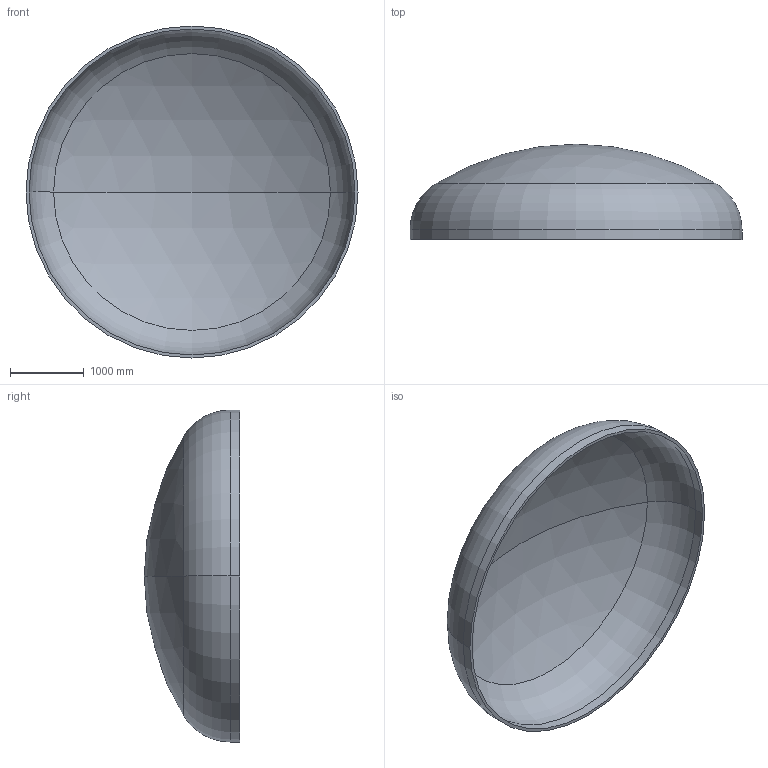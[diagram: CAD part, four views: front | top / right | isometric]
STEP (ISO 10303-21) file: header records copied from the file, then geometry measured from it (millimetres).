
FILE_DESCRIPTION (( 'STEP AP203' ), '1' );
FILE_NAME ('DIN 28013 Korbbogenform_-_Boden DIN 28013 - 4500 x 130 - I - s=41.step', '2016-07-01T23:25:01', ( '' ), ( '' ), 'SwSTEP 2.0', 'SolidWorks 2013', '' );
FILE_SCHEMA (( 'CONFIG_CONTROL_DESIGN' ));
Length unit declared in the file: millimetre
Products named in the file (1): DIN 28013 Korbbogenform_-_Boden DIN 28013 - 4500 x 130 - I - s=41
Bounding box: 4500 x 1291.72 x 4500 mm (x, y, z)
Volume: 967471284.6 mm3; surface area: 47771567.2 mm2
Topology: 1 solids, 1 shells, 13 faces, 24 edges, 14 vertices
Faces by surface type: torus 4, cylinder 4, sphere 4, plane 1
Entity records: 407 total; most frequent: DIRECTION 72, CARTESIAN_POINT 52, ORIENTED_EDGE 48, AXIS2_PLACEMENT_3D 34, EDGE_CURVE 24, CIRCLE 20, VERTEX_POINT 14, EDGE_LOOP 14
